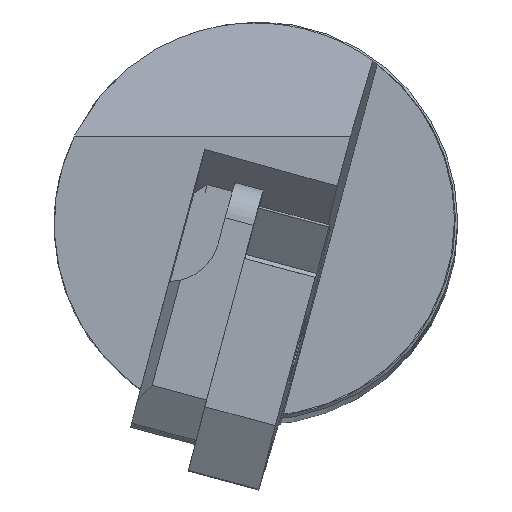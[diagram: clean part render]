
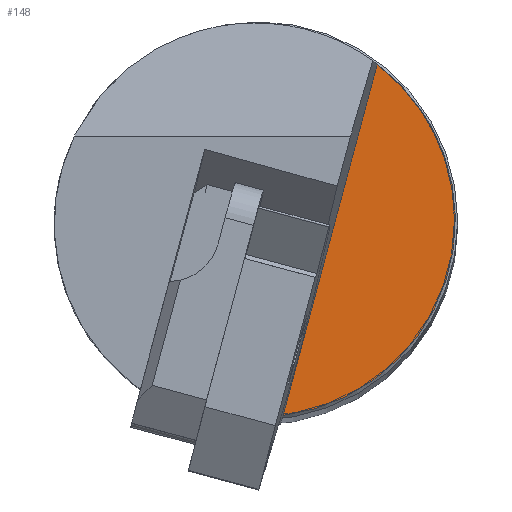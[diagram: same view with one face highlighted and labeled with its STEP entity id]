
A CAD part, top view. The second image highlights one B-rep face of the part: STEP entity #148.
In plain terms, the highlighted planar face has unit normal (0, 0, 1).
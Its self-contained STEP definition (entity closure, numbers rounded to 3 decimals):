
#11 = VERTEX_POINT ( 'NONE', #1127 ) ;
#24 = CIRCLE ( 'NONE', #930, 9.638 ) ;
#78 = DIRECTION ( 'NONE',  ( 0., 0., 1. ) ) ;
#148 = ADVANCED_FACE ( 'NONE', ( #1977 ), #983, .T. ) ;
#167 = CARTESIAN_POINT ( 'NONE',  ( 9.557, 21.964, -19.959 ) ) ;
#248 = CARTESIAN_POINT ( 'NONE',  ( -0.159, -0.209, -19.959 ) ) ;
#278 = DIRECTION ( 'NONE',  ( 1., 0., 0. ) ) ;
#285 = DIRECTION ( 'NONE',  ( 0., 0., 1. ) ) ;
#409 = VERTEX_POINT ( 'NONE', #1124 ) ;
#427 = DIRECTION ( 'NONE',  ( 1., 0., 0. ) ) ;
#561 = LINE ( 'NONE', #167, #613 ) ;
#604 = EDGE_CURVE ( 'NONE', #409, #1849, #24, .T. ) ;
#613 = VECTOR ( 'NONE', #1058, 1000. ) ;
#635 = DIRECTION ( 'NONE',  ( 0., 0., -1. ) ) ;
#725 = EDGE_CURVE ( 'NONE', #409, #11, #1380, .T. ) ;
#732 = ORIENTED_EDGE ( 'NONE', *, *, #902, .T. ) ;
#778 = DIRECTION ( 'NONE',  ( 1., 0., 0. ) ) ;
#902 = EDGE_CURVE ( 'NONE', #1849, #11, #561, .T. ) ;
#927 = EDGE_LOOP ( 'NONE', ( #1502, #1426, #732 ) ) ;
#930 = AXIS2_PLACEMENT_3D ( 'NONE', #248, #78, #427 ) ;
#983 = PLANE ( 'NONE',  #2136 ) ;
#1000 = CARTESIAN_POINT ( 'NONE',  ( 0., 0., -19.959 ) ) ;
#1058 = DIRECTION ( 'NONE',  ( -0.259, -0.966, 0. ) ) ;
#1124 = CARTESIAN_POINT ( 'NONE',  ( 8.855, 3.203, -19.959 ) ) ;
#1127 = CARTESIAN_POINT ( 'NONE',  ( 1.168, -9.343, -19.959 ) ) ;
#1380 = CIRCLE ( 'NONE', #1905, 9.416 ) ;
#1426 = ORIENTED_EDGE ( 'NONE', *, *, #604, .T. ) ;
#1502 = ORIENTED_EDGE ( 'NONE', *, *, #725, .F. ) ;
#1541 = CARTESIAN_POINT ( 'NONE',  ( 0.348, 0., -19.959 ) ) ;
#1849 = VERTEX_POINT ( 'NONE', #2253 ) ;
#1905 = AXIS2_PLACEMENT_3D ( 'NONE', #1000, #635, #278 ) ;
#1977 = FACE_OUTER_BOUND ( 'NONE', #927, .T. ) ;
#2136 = AXIS2_PLACEMENT_3D ( 'NONE', #1541, #285, #778 ) ;
#2253 = CARTESIAN_POINT ( 'NONE',  ( 5.672, 7.465, -19.959 ) ) ;
